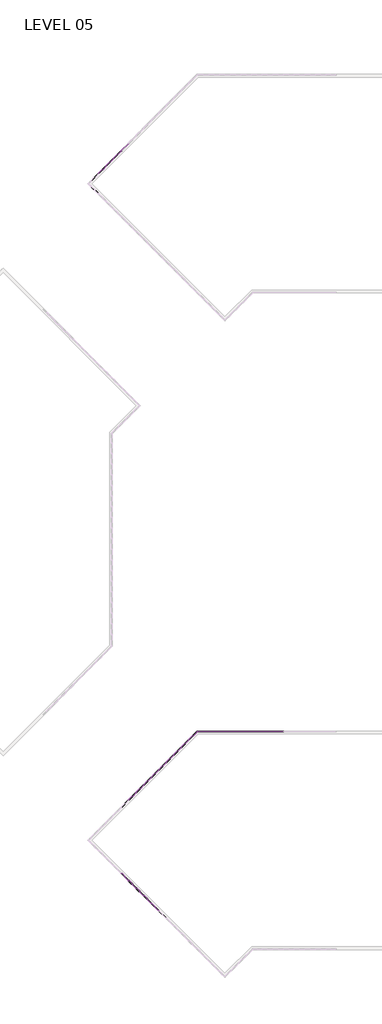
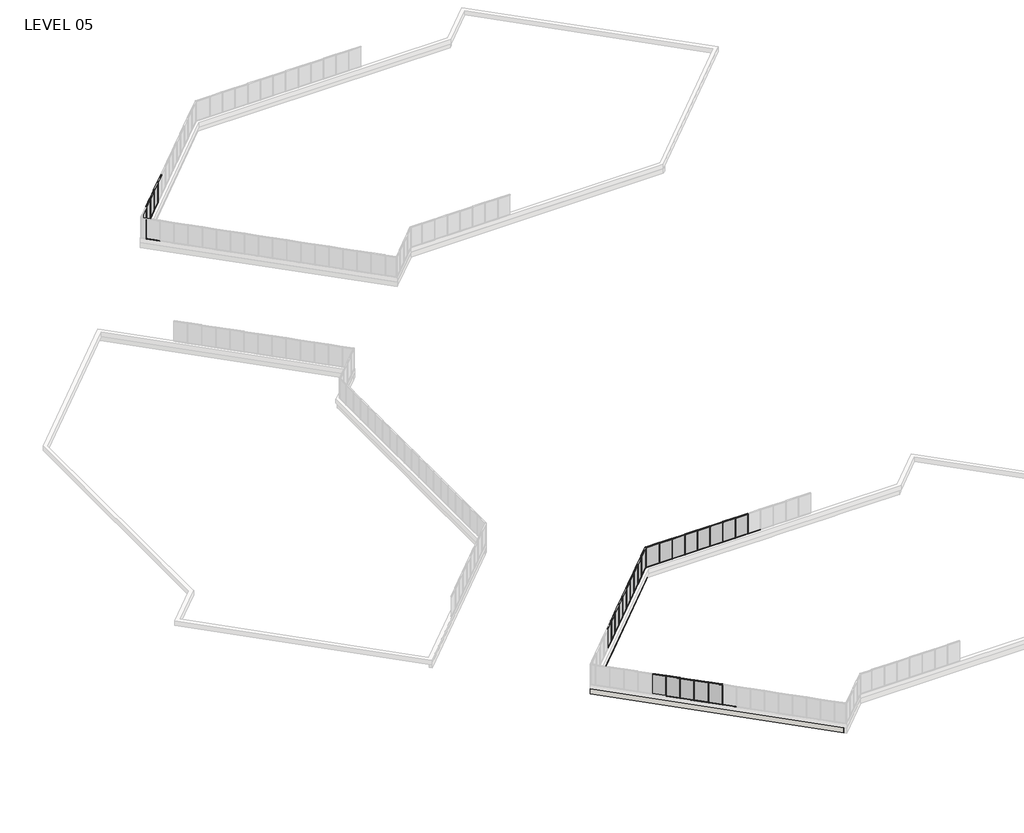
# One storey, part 7 of 17: 84 members, 27 plates, 2 walls.
"""IFC4 building model written with IfcOpenShell, lengths in millimetres."""

from ifc_helpers import new_model, si_unit, origin, place, context, project, spatial, faceted_brep, transform, mapped, element, save
from components import member_5247f267, member_e44af9ab, member_800970d4, member_1bd862b2, member_7ca0f77f, member_ed9c17d6, plate_67294edd, plate_048e4634, plate_aaac5d3d, plate_bbcbcabf, plate_e0fd5134, plate_db5d6751, plate_62af1d3c, plate_dca6a18a

model = new_model("IFC4")

# Units and contexts
model_context = context("Model", 3, world=origin())
ifc_project = project(units=[si_unit("LENGTHUNIT", "METRE", prefix="MILLI")], contexts=[model_context])

# Site, building, storey
site = spatial("IfcSite", under=ifc_project)
building = spatial("IfcBuilding", under=site)
storey = spatial("IfcBuildingStorey", under=building, Name="LEVEL 05", Elevation=15824.2)

# Members
placement = place(None, origin())
member_shape = member_5247f267(model_context)
element("IfcMember", 1, ObjectType="Rectangular Mullion : 2\" x 4.5\" rectangular", at=placement, inside=storey, context=model_context, shape_type="MappedRepresentation", body=[
    mapped(member_shape, transform((21469.35, 26080.1328721, 15824.2), x_axis=(0.0, 0.0, -1.0), y_axis=(0.0, -1.0, 0.0), z_axis=(-1.0, 0.0, 0.0))),
])
element("IfcMember", 2, ObjectType="Rectangular Mullion : 2\" x 4.5\" rectangular", at=placement, inside=storey, context=model_context, shape_type="MappedRepresentation", body=[
    mapped(member_shape, transform((22993.35, 26080.1328721, 15824.2), x_axis=(0.0, 0.0, -1.0), y_axis=(0.0, -1.0, 0.0), z_axis=(-1.0, 0.0, 0.0))),
])
element("IfcMember", 3, ObjectType="Rectangular Mullion : 2\" x 4.5\" rectangular", at=placement, inside=storey, context=model_context, shape_type="MappedRepresentation", body=[
    mapped(member_shape, transform((19945.35, 26080.1328721, 15824.2), x_axis=(0.0, 0.0, -1.0), y_axis=(0.0, -1.0, 0.0), z_axis=(-1.0, 0.0, 0.0))),
])
element("IfcMember", 4, ObjectType="Rectangular Mullion : 2\" x 4.5\" rectangular", at=placement, inside=storey, context=model_context, shape_type="MappedRepresentation", body=[
    mapped(member_shape, transform((18421.35, 26080.1328721, 15824.2), x_axis=(0.0, 0.0, -1.0), y_axis=(0.0, -1.0, 0.0), z_axis=(-1.0, 0.0, 0.0))),
])
element("IfcMember", 5, ObjectType="Rectangular Mullion : 2\" x 4.5\" rectangular", at=placement, inside=storey, context=model_context, shape_type="MappedRepresentation", body=[
    mapped(member_shape, transform((16897.35, 26080.1328721, 15824.2), x_axis=(0.0, 0.0, -1.0), y_axis=(0.0, -1.0, 0.0), z_axis=(-1.0, 0.0, 0.0))),
])
element("IfcMember", 6, ObjectType="Rectangular Mullion : 2\" x 4.5\" rectangular", at=placement, inside=storey, context=model_context, shape_type="MappedRepresentation", body=[
    mapped(member_shape, transform((15373.35, 26080.1328721, 15824.2), x_axis=(0.0, 0.0, -1.0), y_axis=(0.0, -1.0, 0.0), z_axis=(-1.0, 0.0, 0.0))),
])
element("IfcMember", 7, ObjectType="Rectangular Mullion : 2\" x 4.5\" rectangular", at=placement, inside=storey, context=model_context, shape_type="MappedRepresentation", body=[
    mapped(member_shape, transform((13849.35, 26080.1328721, 15824.2), x_axis=(0.0, 0.0, -1.0), y_axis=(0.0, -1.0, 0.0), z_axis=(-1.0, 0.0, 0.0))),
])
element("IfcMember", 8, ObjectType="Rectangular Mullion : 2\" x 4.5\" rectangular", at=placement, inside=storey, context=model_context, shape_type="MappedRepresentation", body=[
    mapped(member_shape, transform((12325.35, 26080.1328721, 15824.2), x_axis=(0.0, 0.0, -1.0), y_axis=(0.0, -1.0, 0.0), z_axis=(-1.0, 0.0, 0.0))),
])
element("IfcMember", 9, ObjectType="Rectangular Mullion : 2\" x 4.5\" rectangular", at=placement, inside=storey, context=model_context, shape_type="MappedRepresentation", body=[
    mapped(member_shape, transform((8320.1332875, 23790.0222953, 15824.2), x_axis=(0.0, 0.0, -1.0), y_axis=(-0.7071067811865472, 0.7071067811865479, 0.0), z_axis=(0.7071067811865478, 0.7071067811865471, 0.0))),
])
element("IfcMember", 10, ObjectType="Rectangular Mullion : 2\" x 4.5\" rectangular", at=placement, inside=storey, context=model_context, shape_type="MappedRepresentation", body=[
    mapped(member_shape, transform((7242.502553, 22712.3915608, 15824.2), x_axis=(0.0, 0.0, -1.0), y_axis=(-0.7071067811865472, 0.7071067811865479, 0.0), z_axis=(0.7071067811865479, 0.7071067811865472, 0.0))),
])
element("IfcMember", 11, ObjectType="Rectangular Mullion : 2\" x 4.5\" rectangular", at=placement, inside=storey, context=model_context, shape_type="MappedRepresentation", body=[
    mapped(member_shape, transform((6164.8718185, 21634.7608262, 15824.2), x_axis=(0.0, 0.0, -1.0), y_axis=(-0.7071067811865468, 0.7071067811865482, 0.0), z_axis=(0.7071067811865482, 0.7071067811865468, 0.0))),
])
element("IfcMember", 12, ObjectType="Rectangular Mullion : 2\" x 4.5\" rectangular", at=placement, inside=storey, context=model_context, shape_type="MappedRepresentation", body=[
    mapped(member_shape, transform((4009.6251512, 19479.5141589, 15824.2), x_axis=(0.0, 0.0, -1.0), y_axis=(-0.7071067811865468, 0.7071067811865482, 0.0), z_axis=(0.7071067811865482, 0.7071067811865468, 0.0))),
])
element("IfcMember", 13, ObjectType="Rectangular Mullion : 2\" x 4.5\" rectangular", at=placement, inside=storey, context=model_context, shape_type="MappedRepresentation", body=[
    mapped(member_shape, transform((2932.0092184, 18401.8982261, 15824.2), x_axis=(0.0, 0.0, -1.0), y_axis=(-0.7071067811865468, 0.7071067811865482, 0.0), z_axis=(0.7071067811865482, 0.7071067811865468, 0.0))),
])
element("IfcMember", 14, ObjectType="Rectangular Mullion : 2\" x 4.5\" rectangular", at=placement, inside=storey, context=model_context, shape_type="MappedRepresentation", body=[
    mapped(member_shape, transform((1854.3932855, 17324.2822933, 15824.2), x_axis=(0.0, 0.0, -1.0), y_axis=(-0.7071067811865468, 0.7071067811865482, 0.0), z_axis=(0.7071067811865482, 0.7071067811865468, 0.0))),
])
element("IfcMember", 15, ObjectType="Rectangular Mullion : 2\" x 4.5\" rectangular", at=placement, inside=storey, context=model_context, shape_type="MappedRepresentation", body=[
    mapped(member_shape, transform((776.7773527, 16246.6663605, 15824.2), x_axis=(0.0, 0.0, -1.0), y_axis=(-0.7071067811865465, 0.7071067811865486, 0.0), z_axis=(0.7071067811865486, 0.7071067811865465, 0.0))),
])
element("IfcMember", 16, ObjectType="Rectangular Mullion : 2\" x 4.5\" rectangular", at=placement, inside=storey, context=model_context, shape_type="MappedRepresentation", body=[
    mapped(member_shape, transform((9397.7640221, 24867.6530298, 15824.2), x_axis=(0.0, 0.0, -1.0), y_axis=(-0.7071067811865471, 0.7071067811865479, 0.0), z_axis=(0.7071067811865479, 0.7071067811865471, 0.0))),
])
element("IfcMember", 17, ObjectType="Rectangular Mullion : 2\" x 4.5\" rectangular", at=placement, inside=storey, context=model_context, shape_type="MappedRepresentation", body=[
    mapped(member_shape, transform((5087.2484848, 20557.1374926, 15824.2), x_axis=(0.0, 0.0, -1.0), y_axis=(-0.7071067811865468, 0.7071067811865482, 0.0), z_axis=(0.7071067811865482, 0.7071067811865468, 0.0))),
])
element("IfcMember", 18, ObjectType="Rectangular Mullion : 2\" x 4.5\" rectangular", at=placement, inside=storey, context=model_context, shape_type="MappedRepresentation", body=[
    mapped(member_shape, transform((812.6774444, 4705.5492921, 15824.2), x_axis=(0.0, 0.0, -1.0), y_axis=(-0.7071067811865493, -0.7071067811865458, 0.0), z_axis=(-0.7071067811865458, 0.7071067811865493, 0.0))),
])
element("IfcMember", 19, ObjectType="Rectangular Mullion : 2\" x 4.5\" rectangular", at=placement, inside=storey, context=model_context, shape_type="MappedRepresentation", body=[
    mapped(member_shape, transform((1890.2724444, 3627.9542921, 15824.2), x_axis=(0.0, 0.0, -1.0), y_axis=(-0.7071067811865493, -0.7071067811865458, 0.0), z_axis=(-0.7071067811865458, 0.7071067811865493, 0.0))),
])
element("IfcMember", 20, ObjectType="Rectangular Mullion : 2\" x 4.5\" rectangular", at=placement, inside=storey, context=model_context, shape_type="MappedRepresentation", body=[
    mapped(member_shape, transform((2967.8674444, 2550.3592921, 15824.2), x_axis=(0.0, 0.0, -1.0), y_axis=(-0.707106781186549, -0.7071067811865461, 0.0), z_axis=(-0.7071067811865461, 0.707106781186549, 0.0))),
])
element("IfcMember", 21, ObjectType="Rectangular Mullion : 2\" x 4.5\" rectangular", at=placement, inside=storey, context=model_context, shape_type="MappedRepresentation", body=[
    mapped(member_shape, transform((-3533.9094563, 105983.7989843, 15824.2), x_axis=(0.0, 0.0, -1.0), y_axis=(-0.7071067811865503, 0.7071067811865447, 0.0), z_axis=(0.7071067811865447, 0.7071067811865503, 0.0))),
])
element("IfcMember", 22, ObjectType="Rectangular Mullion : 2\" x 4.5\" rectangular", at=placement, inside=storey, context=model_context, shape_type="MappedRepresentation", body=[
    mapped(member_shape, transform((-301.0172527, 109216.6911879, 15824.2), x_axis=(0.0, 0.0, -1.0), y_axis=(-0.7071067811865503, 0.7071067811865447, 0.0), z_axis=(0.7071067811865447, 0.7071067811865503, 0.0))),
])
element("IfcMember", 23, ObjectType="Rectangular Mullion : 2\" x 4.5\" rectangular", at=placement, inside=storey, context=model_context, shape_type="MappedRepresentation", body=[
    mapped(member_shape, transform((-1378.6479872, 108139.0604533, 15824.2), x_axis=(0.0, 0.0, -1.0), y_axis=(-0.7071067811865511, 0.707106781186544, 0.0), z_axis=(0.707106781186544, 0.7071067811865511, 0.0))),
])
element("IfcMember", 24, ObjectType="Rectangular Mullion : 2\" x 4.5\" rectangular", at=placement, inside=storey, context=model_context, shape_type="MappedRepresentation", body=[
    mapped(member_shape, transform((-2456.2787218, 107061.4297188, 15824.2), x_axis=(0.0, 0.0, -1.0), y_axis=(-0.7071067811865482, 0.7071067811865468, 0.0), z_axis=(0.7071067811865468, 0.7071067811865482, 0.0))),
])
element("IfcMember", 25, ObjectType="Rectangular Mullion : 2\" x 4.5\" rectangular", at=placement, inside=storey, context=model_context, shape_type="MappedRepresentation", body=[
    mapped(member_shape, transform((-4575.4404937, 104141.486663, 15824.2), x_axis=(0.0, 0.0, -1.0), y_axis=(-0.7071067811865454, -0.7071067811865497, 0.0), z_axis=(-0.7071067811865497, 0.7071067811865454, 0.0))),
])
element("IfcMember", 26, ObjectType="Rectangular Mullion : 2\" x 4.5\" rectangular", at=placement, inside=storey, context=model_context, shape_type="MappedRepresentation", body=[
    mapped(member_shape, transform((21418.55, 26080.1328721, 18415.0), x_axis=(0.0, 0.0, 1.0), y_axis=(0.0, -1.0, 0.0), z_axis=(1.0, 0.0, 0.0))),
])
element("IfcMember", 27, ObjectType="Rectangular Mullion : 2\" x 4.5\" rectangular", at=placement, inside=storey, context=model_context, shape_type="MappedRepresentation", body=[
    mapped(member_shape, transform((22942.55, 26080.1328721, 18415.0), x_axis=(0.0, 0.0, 1.0), y_axis=(0.0, -1.0, 0.0), z_axis=(1.0, 0.0, 0.0))),
])
element("IfcMember", 28, ObjectType="Rectangular Mullion : 2\" x 4.5\" rectangular", at=placement, inside=storey, context=model_context, shape_type="MappedRepresentation", body=[
    mapped(member_shape, transform((19894.55, 26080.1328721, 18415.0), x_axis=(0.0, 0.0, 1.0), y_axis=(0.0, -1.0, 0.0), z_axis=(1.0, 0.0, 0.0))),
])
element("IfcMember", 29, ObjectType="Rectangular Mullion : 2\" x 4.5\" rectangular", at=placement, inside=storey, context=model_context, shape_type="MappedRepresentation", body=[
    mapped(member_shape, transform((18370.55, 26080.1328721, 18415.0), x_axis=(0.0, 0.0, 1.0), y_axis=(0.0, -1.0, 0.0), z_axis=(1.0, 0.0, 0.0))),
])
element("IfcMember", 30, ObjectType="Rectangular Mullion : 2\" x 4.5\" rectangular", at=placement, inside=storey, context=model_context, shape_type="MappedRepresentation", body=[
    mapped(member_shape, transform((16846.55, 26080.1328721, 18415.0), x_axis=(0.0, 0.0, 1.0), y_axis=(0.0, -1.0, 0.0), z_axis=(1.0, 0.0, 0.0))),
])
element("IfcMember", 31, ObjectType="Rectangular Mullion : 2\" x 4.5\" rectangular", at=placement, inside=storey, context=model_context, shape_type="MappedRepresentation", body=[
    mapped(member_shape, transform((15322.55, 26080.1328721, 18415.0), x_axis=(0.0, 0.0, 1.0), y_axis=(0.0, -1.0, 0.0), z_axis=(1.0, 0.0, 0.0))),
])
element("IfcMember", 32, ObjectType="Rectangular Mullion : 2\" x 4.5\" rectangular", at=placement, inside=storey, context=model_context, shape_type="MappedRepresentation", body=[
    mapped(member_shape, transform((13798.55, 26080.1328721, 18415.0), x_axis=(0.0, 0.0, 1.0), y_axis=(0.0, -1.0, 0.0), z_axis=(1.0, 0.0, 0.0))),
])
element("IfcMember", 33, ObjectType="Rectangular Mullion : 2\" x 4.5\" rectangular", at=placement, inside=storey, context=model_context, shape_type="MappedRepresentation", body=[
    mapped(member_shape, transform((8356.054312, 23825.9433198, 18415.0), x_axis=(0.0, 0.0, 1.0), y_axis=(-0.7071067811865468, 0.7071067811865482, 0.0), z_axis=(-0.7071067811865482, -0.7071067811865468, 0.0))),
])
element("IfcMember", 34, ObjectType="Rectangular Mullion : 2\" x 4.5\" rectangular", at=placement, inside=storey, context=model_context, shape_type="MappedRepresentation", body=[
    mapped(member_shape, transform((7278.4235775, 22748.3125852, 18415.0), x_axis=(0.0, 0.0, 1.0), y_axis=(-0.7071067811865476, 0.7071067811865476, 0.0), z_axis=(-0.7071067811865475, -0.7071067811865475, 0.0))),
])
element("IfcMember", 35, ObjectType="Rectangular Mullion : 2\" x 4.5\" rectangular", at=placement, inside=storey, context=model_context, shape_type="MappedRepresentation", body=[
    mapped(member_shape, transform((6200.792843, 21670.6818507, 18415.0), x_axis=(0.0, 0.0, 1.0), y_axis=(-0.7071067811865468, 0.7071067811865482, 0.0), z_axis=(-0.7071067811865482, -0.7071067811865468, 0.0))),
])
element("IfcMember", 36, ObjectType="Rectangular Mullion : 2\" x 4.5\" rectangular", at=placement, inside=storey, context=model_context, shape_type="MappedRepresentation", body=[
    mapped(member_shape, transform((4045.5461756, 19515.4351834, 18415.0), x_axis=(0.0, 0.0, 1.0), y_axis=(-0.7071067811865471, 0.7071067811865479, 0.0), z_axis=(-0.7071067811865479, -0.7071067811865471, 0.0))),
])
element("IfcMember", 37, ObjectType="Rectangular Mullion : 2\" x 4.5\" rectangular", at=placement, inside=storey, context=model_context, shape_type="MappedRepresentation", body=[
    mapped(member_shape, transform((2967.9302428, 18437.8192506, 18415.0), x_axis=(0.0, 0.0, 1.0), y_axis=(-0.7071067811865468, 0.7071067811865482, 0.0), z_axis=(-0.7071067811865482, -0.7071067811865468, 0.0))),
])
element("IfcMember", 38, ObjectType="Rectangular Mullion : 2\" x 4.5\" rectangular", at=placement, inside=storey, context=model_context, shape_type="MappedRepresentation", body=[
    mapped(member_shape, transform((1890.31431, 17360.2033178, 18415.0), x_axis=(0.0, 0.0, 1.0), y_axis=(-0.7071067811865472, 0.7071067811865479, 0.0), z_axis=(-0.7071067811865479, -0.7071067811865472, 0.0))),
])
element("IfcMember", 39, ObjectType="Rectangular Mullion : 2\" x 4.5\" rectangular", at=placement, inside=storey, context=model_context, shape_type="MappedRepresentation", body=[
    mapped(member_shape, transform((812.6983772, 16282.587385, 18415.0), x_axis=(0.0, 0.0, 1.0), y_axis=(-0.7071067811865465, 0.7071067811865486, 0.0), z_axis=(-0.7071067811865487, -0.7071067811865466, 0.0))),
])
element("IfcMember", 40, ObjectType="Rectangular Mullion : 2\" x 4.5\" rectangular", at=placement, inside=storey, context=model_context, shape_type="MappedRepresentation", body=[
    mapped(member_shape, transform((5123.1695093, 20593.058517, 18415.0), x_axis=(0.0, 0.0, 1.0), y_axis=(-0.7071067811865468, 0.7071067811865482, 0.0), z_axis=(-0.7071067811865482, -0.7071067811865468, 0.0))),
])
element("IfcMember", 41, ObjectType="Rectangular Mullion : 2\" x 4.5\" rectangular", at=placement, inside=storey, context=model_context, shape_type="MappedRepresentation", body=[
    mapped(member_shape, transform((776.7564199, 4741.4703165, 18415.0), x_axis=(0.0, 0.0, 1.0), y_axis=(-0.7071067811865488, -0.7071067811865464, 0.0), z_axis=(0.7071067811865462, -0.7071067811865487, 0.0))),
])
element("IfcMember", 42, ObjectType="Rectangular Mullion : 2\" x 4.5\" rectangular", at=placement, inside=storey, context=model_context, shape_type="MappedRepresentation", body=[
    mapped(member_shape, transform((1854.3514199, 3663.8753165, 18415.0), x_axis=(0.0, 0.0, 1.0), y_axis=(-0.7071067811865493, -0.7071067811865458, 0.0), z_axis=(0.7071067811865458, -0.7071067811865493, 0.0))),
])
element("IfcMember", 43, ObjectType="Rectangular Mullion : 2\" x 4.5\" rectangular", at=placement, inside=storey, context=model_context, shape_type="MappedRepresentation", body=[
    mapped(member_shape, transform((2931.9464199, 2586.2803165, 18415.0), x_axis=(0.0, 0.0, 1.0), y_axis=(-0.7071067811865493, -0.7071067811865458, 0.0), z_axis=(0.7071067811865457, -0.7071067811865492, 0.0))),
])
element("IfcMember", 44, ObjectType="Rectangular Mullion : 2\" x 4.5\" rectangular", at=placement, inside=storey, context=model_context, shape_type="MappedRepresentation", body=[
    mapped(member_shape, transform((4009.5414199, 1508.6853165, 18415.0), x_axis=(0.0, 0.0, 1.0), y_axis=(-0.7071067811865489, -0.7071067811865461, 0.0), z_axis=(0.7071067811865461, -0.7071067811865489, 0.0))),
])
element("IfcMember", 45, ObjectType="Rectangular Mullion : 2\" x 4.5\" rectangular", at=placement, inside=storey, context=model_context, shape_type="MappedRepresentation", body=[
    mapped(member_shape, transform((-3497.9884318, 106019.7200088, 18415.0), x_axis=(0.0, 0.0, 1.0), y_axis=(-0.7071067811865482, 0.7071067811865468, 0.0), z_axis=(-0.7071067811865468, -0.7071067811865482, 0.0))),
])
element("IfcMember", 46, ObjectType="Rectangular Mullion : 2\" x 4.5\" rectangular", at=placement, inside=storey, context=model_context, shape_type="MappedRepresentation", body=[
    mapped(member_shape, transform((-265.0962282, 109252.6122123, 18415.0), x_axis=(0.0, 0.0, 1.0), y_axis=(-0.7071067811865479, 0.7071067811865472, 0.0), z_axis=(-0.7071067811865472, -0.7071067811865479, 0.0))),
])
element("IfcMember", 47, ObjectType="Rectangular Mullion : 2\" x 4.5\" rectangular", at=placement, inside=storey, context=model_context, shape_type="MappedRepresentation", body=[
    mapped(member_shape, transform((-1342.7269627, 108174.9814778, 18415.0), x_axis=(0.0, 0.0, 1.0), y_axis=(-0.7071067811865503, 0.7071067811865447, 0.0), z_axis=(-0.7071067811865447, -0.7071067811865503, 0.0))),
])
element("IfcMember", 48, ObjectType="Rectangular Mullion : 2\" x 4.5\" rectangular", at=placement, inside=storey, context=model_context, shape_type="MappedRepresentation", body=[
    mapped(member_shape, transform((-2420.3576973, 107097.3507433, 18415.0), x_axis=(0.0, 0.0, 1.0), y_axis=(-0.7071067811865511, 0.707106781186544, 0.0), z_axis=(-0.707106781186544, -0.7071067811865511, 0.0))),
])
member_2_shape = member_e44af9ab(model_context)
element("IfcMember", 49, ObjectType="Rectangular Mullion : 2\" x 4.5\" rectangular", at=placement, inside=storey, context=model_context, shape_type="MappedRepresentation", body=[
    mapped(member_2_shape, transform((21443.95, 26080.1328721, 15824.2), x_axis=(1.0, 0.0, 0.0), y_axis=(0.0, -1.0, 0.0), z_axis=(0.0, 0.0, -1.0))),
])
element("IfcMember", 50, ObjectType="Rectangular Mullion : 2\" x 4.5\" rectangular", at=placement, inside=storey, context=model_context, shape_type="MappedRepresentation", body=[
    mapped(member_2_shape, transform((22967.95, 26080.1328721, 15824.2), x_axis=(1.0, 0.0, 0.0), y_axis=(0.0, -1.0, 0.0), z_axis=(0.0, 0.0, -1.0))),
])
element("IfcMember", 51, ObjectType="Rectangular Mullion : 2\" x 4.5\" rectangular", at=placement, inside=storey, context=model_context, shape_type="MappedRepresentation", body=[
    mapped(member_2_shape, transform((19919.95, 26080.1328721, 15824.2), x_axis=(1.0, 0.0, 0.0), y_axis=(0.0, -1.0, 0.0), z_axis=(0.0, 0.0, -1.0))),
])
element("IfcMember", 52, ObjectType="Rectangular Mullion : 2\" x 4.5\" rectangular", at=placement, inside=storey, context=model_context, shape_type="MappedRepresentation", body=[
    mapped(member_2_shape, transform((18395.95, 26080.1328721, 15824.2), x_axis=(1.0, 0.0, 0.0), y_axis=(0.0, -1.0, 0.0), z_axis=(0.0, 0.0, -1.0))),
])
element("IfcMember", 53, ObjectType="Rectangular Mullion : 2\" x 4.5\" rectangular", at=placement, inside=storey, context=model_context, shape_type="MappedRepresentation", body=[
    mapped(member_2_shape, transform((16871.95, 26080.1328721, 15824.2), x_axis=(1.0, 0.0, 0.0), y_axis=(0.0, -1.0, 0.0), z_axis=(0.0, 0.0, -1.0))),
])
element("IfcMember", 54, ObjectType="Rectangular Mullion : 2\" x 4.5\" rectangular", at=placement, inside=storey, context=model_context, shape_type="MappedRepresentation", body=[
    mapped(member_2_shape, transform((15347.95, 26080.1328721, 15824.2), x_axis=(1.0, 0.0, 0.0), y_axis=(0.0, -1.0, 0.0), z_axis=(0.0, 0.0, -1.0))),
])
element("IfcMember", 55, ObjectType="Rectangular Mullion : 2\" x 4.5\" rectangular", at=placement, inside=storey, context=model_context, shape_type="MappedRepresentation", body=[
    mapped(member_2_shape, transform((13823.95, 26080.1328721, 15824.2), x_axis=(1.0, 0.0, 0.0), y_axis=(0.0, -1.0, 0.0), z_axis=(0.0, 0.0, -1.0))),
])
element("IfcMember", 56, ObjectType="Rectangular Mullion : 2\" x 4.5\" rectangular", at=placement, inside=storey, context=model_context, shape_type="MappedRepresentation", body=[
    mapped(member_2_shape, transform((12299.95, 26080.1328721, 15824.2), x_axis=(1.0, 0.0, 0.0), y_axis=(0.0, -1.0, 0.0), z_axis=(0.0, 0.0, -1.0))),
])
element("IfcMember", 57, ObjectType="Rectangular Mullion : 2\" x 4.5\" rectangular", at=placement, inside=storey, context=model_context, shape_type="MappedRepresentation", body=[
    mapped(member_2_shape, transform((8338.0937998, 23807.9828075, 15824.2), x_axis=(-0.7071067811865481, -0.7071067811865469, 0.0), y_axis=(-0.7071067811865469, 0.7071067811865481, 0.0), z_axis=(0.0, 0.0, -1.0))),
])
element("IfcMember", 58, ObjectType="Rectangular Mullion : 2\" x 4.5\" rectangular", at=placement, inside=storey, context=model_context, shape_type="MappedRepresentation", body=[
    mapped(member_2_shape, transform((7260.4630653, 22730.352073, 15824.2), x_axis=(-0.7071067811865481, -0.7071067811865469, 0.0), y_axis=(-0.7071067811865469, 0.7071067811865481, 0.0), z_axis=(0.0, 0.0, -1.0))),
])
element("IfcMember", 59, ObjectType="Rectangular Mullion : 2\" x 4.5\" rectangular", at=placement, inside=storey, context=model_context, shape_type="MappedRepresentation", body=[
    mapped(member_2_shape, transform((6182.8323307, 21652.7213385, 15824.2), x_axis=(-0.7071067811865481, -0.7071067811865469, 0.0), y_axis=(-0.7071067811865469, 0.7071067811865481, 0.0), z_axis=(0.0, 0.0, -1.0))),
])
element("IfcMember", 60, ObjectType="Rectangular Mullion : 2\" x 4.5\" rectangular", at=placement, inside=storey, context=model_context, shape_type="MappedRepresentation", body=[
    mapped(member_2_shape, transform((4027.5856634, 19497.4746711, 15824.2), x_axis=(-0.7071067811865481, -0.7071067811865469, 0.0), y_axis=(-0.7071067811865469, 0.7071067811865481, 0.0), z_axis=(0.0, 0.0, -1.0))),
])
element("IfcMember", 61, ObjectType="Rectangular Mullion : 2\" x 4.5\" rectangular", at=placement, inside=storey, context=model_context, shape_type="MappedRepresentation", body=[
    mapped(member_2_shape, transform((2949.9697306, 18419.8587383, 15824.2), x_axis=(-0.7071067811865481, -0.7071067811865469, 0.0), y_axis=(-0.7071067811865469, 0.7071067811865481, 0.0), z_axis=(0.0, 0.0, -1.0))),
])
element("IfcMember", 62, ObjectType="Rectangular Mullion : 2\" x 4.5\" rectangular", at=placement, inside=storey, context=model_context, shape_type="MappedRepresentation", body=[
    mapped(member_2_shape, transform((1872.3537978, 17342.2428055, 15824.2), x_axis=(-0.7071067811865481, -0.7071067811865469, 0.0), y_axis=(-0.7071067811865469, 0.7071067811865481, 0.0), z_axis=(0.0, 0.0, -1.0))),
])
element("IfcMember", 63, ObjectType="Rectangular Mullion : 2\" x 4.5\" rectangular", at=placement, inside=storey, context=model_context, shape_type="MappedRepresentation", body=[
    mapped(member_2_shape, transform((794.737865, 16264.6268727, 15824.2), x_axis=(-0.7071067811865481, -0.7071067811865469, 0.0), y_axis=(-0.7071067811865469, 0.7071067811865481, 0.0), z_axis=(0.0, 0.0, -1.0))),
])
element("IfcMember", 64, ObjectType="Rectangular Mullion : 2\" x 4.5\" rectangular", at=placement, inside=storey, context=model_context, shape_type="MappedRepresentation", body=[
    mapped(member_2_shape, transform((9415.7245343, 24885.6135421, 15824.2), x_axis=(-0.7071067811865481, -0.7071067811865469, 0.0), y_axis=(-0.7071067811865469, 0.7071067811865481, 0.0), z_axis=(0.0, 0.0, -1.0))),
])
element("IfcMember", 65, ObjectType="Rectangular Mullion : 2\" x 4.5\" rectangular", at=placement, inside=storey, context=model_context, shape_type="MappedRepresentation", body=[
    mapped(member_2_shape, transform((5105.2089971, 20575.0980048, 15824.2), x_axis=(-0.7071067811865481, -0.7071067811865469, 0.0), y_axis=(-0.7071067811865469, 0.7071067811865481, 0.0), z_axis=(0.0, 0.0, -1.0))),
])
element("IfcMember", 66, ObjectType="Rectangular Mullion : 2\" x 4.5\" rectangular", at=placement, inside=storey, context=model_context, shape_type="MappedRepresentation", body=[
    mapped(member_2_shape, transform((794.7169322, 4723.5098043, 15824.2), x_axis=(0.7071067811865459, -0.7071067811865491, 0.0), y_axis=(-0.7071067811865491, -0.7071067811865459, 0.0), z_axis=(0.0, 0.0, -1.0))),
])
element("IfcMember", 67, ObjectType="Rectangular Mullion : 2\" x 4.5\" rectangular", at=placement, inside=storey, context=model_context, shape_type="MappedRepresentation", body=[
    mapped(member_2_shape, transform((1872.3119322, 3645.9148043, 15824.2), x_axis=(0.7071067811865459, -0.7071067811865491, 0.0), y_axis=(-0.7071067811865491, -0.7071067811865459, 0.0), z_axis=(0.0, 0.0, -1.0))),
])
element("IfcMember", 68, ObjectType="Rectangular Mullion : 2\" x 4.5\" rectangular", at=placement, inside=storey, context=model_context, shape_type="MappedRepresentation", body=[
    mapped(member_2_shape, transform((2949.9069322, 2568.3198043, 15824.2), x_axis=(0.7071067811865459, -0.7071067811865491, 0.0), y_axis=(-0.7071067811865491, -0.7071067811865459, 0.0), z_axis=(0.0, 0.0, -1.0))),
])
element("IfcMember", 69, ObjectType="Rectangular Mullion : 2\" x 4.5\" rectangular", at=placement, inside=storey, context=model_context, shape_type="MappedRepresentation", body=[
    mapped(member_2_shape, transform((4027.5019322, 1490.7248043, 15824.2), x_axis=(0.7071067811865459, -0.7071067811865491, 0.0), y_axis=(-0.7071067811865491, -0.7071067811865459, 0.0), z_axis=(0.0, 0.0, -1.0))),
])
element("IfcMember", 70, ObjectType="Rectangular Mullion : 2\" x 4.5\" rectangular", at=placement, inside=storey, context=model_context, shape_type="MappedRepresentation", body=[
    mapped(member_2_shape, transform((5102.1211371, 416.1055994, 15824.2), x_axis=(0.7071067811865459, -0.7071067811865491, 0.0), y_axis=(-0.7071067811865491, -0.7071067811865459, 0.0), z_axis=(0.0, 0.0, -1.0))),
])
element("IfcMember", 71, ObjectType="Rectangular Mullion : 2\" x 4.5\" rectangular", at=placement, inside=storey, context=model_context, shape_type="MappedRepresentation", body=[
    mapped(member_2_shape, transform((-3515.948944, 106001.7594965, 15824.2), x_axis=(-0.7071067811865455, -0.7071067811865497, 0.0), y_axis=(-0.7071067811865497, 0.7071067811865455, 0.0), z_axis=(0.0, 0.0, -1.0))),
])
element("IfcMember", 72, ObjectType="Rectangular Mullion : 2\" x 4.5\" rectangular", at=placement, inside=storey, context=model_context, shape_type="MappedRepresentation", body=[
    mapped(member_2_shape, transform((-283.0567405, 109234.6517001, 15824.2), x_axis=(-0.7071067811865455, -0.7071067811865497, 0.0), y_axis=(-0.7071067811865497, 0.7071067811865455, 0.0), z_axis=(0.0, 0.0, -1.0))),
])
element("IfcMember", 73, ObjectType="Rectangular Mullion : 2\" x 4.5\" rectangular", at=placement, inside=storey, context=model_context, shape_type="MappedRepresentation", body=[
    mapped(member_2_shape, transform((-1360.687475, 108157.0209656, 15824.2), x_axis=(-0.7071067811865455, -0.7071067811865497, 0.0), y_axis=(-0.7071067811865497, 0.7071067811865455, 0.0), z_axis=(0.0, 0.0, -1.0))),
])
element("IfcMember", 74, ObjectType="Rectangular Mullion : 2\" x 4.5\" rectangular", at=placement, inside=storey, context=model_context, shape_type="MappedRepresentation", body=[
    mapped(member_2_shape, transform((-2438.3182095, 107079.390231, 15824.2), x_axis=(-0.7071067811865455, -0.7071067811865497, 0.0), y_axis=(-0.7071067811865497, 0.7071067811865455, 0.0), z_axis=(0.0, 0.0, -1.0))),
])
element("IfcMember", 75, ObjectType="Rectangular Mullion : 2\" x 4.5\" rectangular", at=placement, inside=storey, context=model_context, shape_type="MappedRepresentation", body=[
    mapped(member_2_shape, transform((-4593.4010059, 104159.4471752, 15824.2), x_axis=(0.7071067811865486, -0.7071067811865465, 0.0), y_axis=(-0.7071067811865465, -0.7071067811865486, 0.0), z_axis=(0.0, 0.0, -1.0))),
])
member_3_shape = member_800970d4(model_context)
element("IfcMember", 76, ObjectType="Rectangular Mullion : 2\" x 4.5\" rectangular", at=placement, inside=storey, context=model_context, shape_type="MappedRepresentation", body=[
    mapped(member_3_shape, transform((10610.2438644, 26080.1328721, 18415.0), x_axis=(-1.0, 0.0, 0.0), y_axis=(0.0, -1.0, 0.0), z_axis=(0.0, 0.0, 1.0))),
])
element("IfcMember", 77, ObjectType="Rectangular Mullion : 2\" x 4.5\" rectangular", at=placement, inside=storey, context=model_context, shape_type="MappedRepresentation", body=[
    mapped(member_3_shape, transform((10610.2438644, 26080.1328721, 18415.0), x_axis=(0.7071067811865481, 0.7071067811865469, 0.0), y_axis=(-0.7071067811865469, 0.7071067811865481, 0.0), z_axis=(0.0, 0.0, 1.0))),
])
member_4_shape = member_1bd862b2(model_context)
element("IfcMember", 78, ObjectType="Rectangular Mullion : 2\" x 4.5\" rectangular", at=placement, inside=storey, context=model_context, shape_type="MappedRepresentation", body=[
    mapped(member_4_shape, transform((12274.55, 26080.1328721, 18415.0), x_axis=(0.0, 0.0, 1.0), y_axis=(0.0, -1.0, 0.0), z_axis=(1.0, 0.0, 0.0))),
])
element("IfcMember", 79, ObjectType="Rectangular Mullion : 2\" x 4.5\" rectangular", at=placement, inside=storey, context=model_context, shape_type="MappedRepresentation", body=[
    mapped(member_4_shape, transform((10661.0438644, 26080.1328721, 15824.2), x_axis=(0.0, 0.0, -1.0), y_axis=(0.0, -1.0, 0.0), z_axis=(-1.0, 0.0, 0.0))),
])
member_5_shape = member_7ca0f77f(model_context)
element("IfcMember", 80, ObjectType="Rectangular Mullion : 2\" x 4.5\" rectangular", at=placement, inside=storey, context=model_context, shape_type="MappedRepresentation", body=[
    mapped(member_5_shape, transform((9433.6850466, 24903.5740543, 18415.0), x_axis=(0.0, 0.0, 1.0), y_axis=(-0.7071067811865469, 0.7071067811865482, 0.0), z_axis=(-0.7071067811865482, -0.7071067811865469, 0.0))),
])
element("IfcMember", 81, ObjectType="Rectangular Mullion : 2\" x 4.5\" rectangular", at=placement, inside=storey, context=model_context, shape_type="MappedRepresentation", body=[
    mapped(member_5_shape, transform((10574.3228399, 26044.2118476, 15824.2), x_axis=(0.0, 0.0, -1.0), y_axis=(-0.7071067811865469, 0.7071067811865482, 0.0), z_axis=(0.7071067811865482, 0.7071067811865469, 0.0))),
])
member_6_shape = member_ed9c17d6(model_context)
element("IfcMember", 82, ObjectType="Rectangular Mullion : 2\" x 4.5\" rectangular", at=placement, inside=storey, context=model_context, shape_type="MappedRepresentation", body=[
    mapped(member_6_shape, transform((5084.1606248, 434.0661116, 18415.0), x_axis=(0.0, 0.0, 1.0), y_axis=(-0.7071067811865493, -0.7071067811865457, 0.0), z_axis=(0.7071067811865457, -0.7071067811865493, 0.0))),
])
element("IfcMember", 83, ObjectType="Rectangular Mullion : 2\" x 4.5\" rectangular", at=placement, inside=storey, context=model_context, shape_type="MappedRepresentation", body=[
    mapped(member_6_shape, transform((4045.4624444, 1472.7642921, 15824.2), x_axis=(0.0, 0.0, -1.0), y_axis=(-0.7071067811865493, -0.7071067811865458, 0.0), z_axis=(-0.7071067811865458, 0.7071067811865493, 0.0))),
])
element("IfcMember", 84, ObjectType="Rectangular Mullion : 2\" x 4.5\" rectangular", at=placement, inside=storey, context=model_context, shape_type="MappedRepresentation", body=[
    mapped(member_6_shape, transform((5120.0816493, 398.1450872, 15824.2), x_axis=(0.0, 0.0, -1.0), y_axis=(-0.7071067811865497, -0.7071067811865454, 0.0), z_axis=(-0.7071067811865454, 0.7071067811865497, 0.0))),
])

# Plates
plate_shape = plate_67294edd(model_context)
element("IfcPlate", 85, ObjectType="System Panel : 1/4\" Glass", at=placement, inside=storey, context=model_context, shape_type="MappedRepresentation", body=[
    mapped(plate_shape, transform((22205.95, 26080.1328721, 15875.0), x_axis=(1.0, 0.0, 0.0), y_axis=(0.0, 1.0, 0.0), z_axis=(0.0, 0.0, 1.0))),
])
element("IfcPlate", 86, ObjectType="System Panel : 1/4\" Glass", at=placement, inside=storey, context=model_context, shape_type="MappedRepresentation", body=[
    mapped(plate_shape, transform((20681.95, 26080.1328721, 15875.0), x_axis=(1.0, 0.0, 0.0), y_axis=(0.0, 1.0, 0.0), z_axis=(0.0, 0.0, 1.0))),
])
element("IfcPlate", 87, ObjectType="System Panel : 1/4\" Glass", at=placement, inside=storey, context=model_context, shape_type="MappedRepresentation", body=[
    mapped(plate_shape, transform((19157.95, 26080.1328721, 15875.0), x_axis=(1.0, 0.0, 0.0), y_axis=(0.0, 1.0, 0.0), z_axis=(0.0, 0.0, 1.0))),
])
element("IfcPlate", 88, ObjectType="System Panel : 1/4\" Glass", at=placement, inside=storey, context=model_context, shape_type="MappedRepresentation", body=[
    mapped(plate_shape, transform((17633.95, 26080.1328721, 15875.0), x_axis=(1.0, 0.0, 0.0), y_axis=(0.0, 1.0, 0.0), z_axis=(0.0, 0.0, 1.0))),
])
element("IfcPlate", 89, ObjectType="System Panel : 1/4\" Glass", at=placement, inside=storey, context=model_context, shape_type="MappedRepresentation", body=[
    mapped(plate_shape, transform((16109.95, 26080.1328721, 15875.0), x_axis=(1.0, 0.0, 0.0), y_axis=(0.0, 1.0, 0.0), z_axis=(0.0, 0.0, 1.0))),
])
element("IfcPlate", 90, ObjectType="System Panel : 1/4\" Glass", at=placement, inside=storey, context=model_context, shape_type="MappedRepresentation", body=[
    mapped(plate_shape, transform((14585.95, 26080.1328721, 15875.0), x_axis=(1.0, 0.0, 0.0), y_axis=(0.0, 1.0, 0.0), z_axis=(0.0, 0.0, 1.0))),
])
element("IfcPlate", 91, ObjectType="System Panel : 1/4\" Glass", at=placement, inside=storey, context=model_context, shape_type="MappedRepresentation", body=[
    mapped(plate_shape, transform((13061.95, 26080.1328721, 15875.0), x_axis=(1.0, 0.0, 0.0), y_axis=(0.0, 1.0, 0.0), z_axis=(0.0, 0.0, 1.0))),
])
element("IfcPlate", 92, ObjectType="System Panel : 1/4\" Glass", at=placement, inside=storey, context=model_context, shape_type="MappedRepresentation", body=[
    mapped(plate_shape, transform((7799.2784325, 23269.1674403, 15875.0), x_axis=(-0.7071067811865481, -0.7071067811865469, 0.0), y_axis=(0.7071067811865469, -0.7071067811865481, 0.0), z_axis=(0.0, 0.0, 1.0))),
])
element("IfcPlate", 93, ObjectType="System Panel : 1/4\" Glass", at=placement, inside=storey, context=model_context, shape_type="MappedRepresentation", body=[
    mapped(plate_shape, transform((6721.647698, 22191.5367057, 15875.0), x_axis=(-0.7071067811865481, -0.7071067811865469, 0.0), y_axis=(0.7071067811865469, -0.7071067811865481, 0.0), z_axis=(0.0, 0.0, 1.0))),
])
element("IfcPlate", 94, ObjectType="System Panel : 1/4\" Glass", at=placement, inside=storey, context=model_context, shape_type="MappedRepresentation", body=[
    mapped(plate_shape, transform((8876.909167, 24346.7981748, 15875.0), x_axis=(-0.7071067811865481, -0.7071067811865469, 0.0), y_axis=(0.7071067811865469, -0.7071067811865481, 0.0), z_axis=(0.0, 0.0, 1.0))),
])
element("IfcPlate", 95, ObjectType="System Panel : 1/4\" Glass", at=placement, inside=storey, context=model_context, shape_type="MappedRepresentation", body=[
    mapped(plate_shape, transform((-4054.7643113, 105462.9441292, 15875.0), x_axis=(-0.7071067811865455, -0.7071067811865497, 0.0), y_axis=(0.7071067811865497, -0.7071067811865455, 0.0), z_axis=(0.0, 0.0, 1.0))),
])
element("IfcPlate", 96, ObjectType="System Panel : 1/4\" Glass", at=placement, inside=storey, context=model_context, shape_type="MappedRepresentation", body=[
    mapped(plate_shape, transform((-821.8721077, 108695.8363328, 15875.0), x_axis=(-0.7071067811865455, -0.7071067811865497, 0.0), y_axis=(0.7071067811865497, -0.7071067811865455, 0.0), z_axis=(0.0, 0.0, 1.0))),
])
element("IfcPlate", 97, ObjectType="System Panel : 1/4\" Glass", at=placement, inside=storey, context=model_context, shape_type="MappedRepresentation", body=[
    mapped(plate_shape, transform((-1899.5028422, 107618.2055983, 15875.0), x_axis=(-0.7071067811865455, -0.7071067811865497, 0.0), y_axis=(0.7071067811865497, -0.7071067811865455, 0.0), z_axis=(0.0, 0.0, 1.0))),
])
element("IfcPlate", 98, ObjectType="System Panel : 1/4\" Glass", at=placement, inside=storey, context=model_context, shape_type="MappedRepresentation", body=[
    mapped(plate_shape, transform((-2977.1335768, 106540.5748638, 15875.0), x_axis=(-0.7071067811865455, -0.7071067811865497, 0.0), y_axis=(0.7071067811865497, -0.7071067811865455, 0.0), z_axis=(0.0, 0.0, 1.0))),
])
plate_2_shape = plate_048e4634(model_context)
element("IfcPlate", 99, ObjectType="System Panel : 1/4\" Glass", at=placement, inside=storey, context=model_context, shape_type="MappedRepresentation", body=[
    mapped(plate_2_shape, transform((1333.5144322, 4184.7123043, 15875.0), x_axis=(0.7071067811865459, -0.7071067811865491, 0.0), y_axis=(0.7071067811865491, 0.7071067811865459, 0.0), z_axis=(0.0, 0.0, 1.0))),
])
element("IfcPlate", 100, ObjectType="System Panel : 1/4\" Glass", at=placement, inside=storey, context=model_context, shape_type="MappedRepresentation", body=[
    mapped(plate_2_shape, transform((2411.1094322, 3107.1173043, 15875.0), x_axis=(0.7071067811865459, -0.7071067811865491, 0.0), y_axis=(0.7071067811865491, 0.7071067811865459, 0.0), z_axis=(0.0, 0.0, 1.0))),
])
element("IfcPlate", 101, ObjectType="System Panel : 1/4\" Glass", at=placement, inside=storey, context=model_context, shape_type="MappedRepresentation", body=[
    mapped(plate_2_shape, transform((3488.7044322, 2029.5223043, 15875.0), x_axis=(0.7071067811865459, -0.7071067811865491, 0.0), y_axis=(0.7071067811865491, 0.7071067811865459, 0.0), z_axis=(0.0, 0.0, 1.0))),
])
plate_3_shape = plate_aaac5d3d(model_context)
element("IfcPlate", 102, ObjectType="System Panel : 1/4\" Glass", at=placement, inside=storey, context=model_context, shape_type="MappedRepresentation", body=[
    mapped(plate_3_shape, transform((3488.777697, 18958.6667047, 15875.0), x_axis=(-0.7071067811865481, -0.7071067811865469, 0.0), y_axis=(0.7071067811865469, -0.7071067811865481, 0.0), z_axis=(0.0, 0.0, 1.0))),
])
element("IfcPlate", 103, ObjectType="System Panel : 1/4\" Glass", at=placement, inside=storey, context=model_context, shape_type="MappedRepresentation", body=[
    mapped(plate_3_shape, transform((2411.1617642, 17881.0507719, 15875.0), x_axis=(-0.7071067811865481, -0.7071067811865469, 0.0), y_axis=(0.7071067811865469, -0.7071067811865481, 0.0), z_axis=(0.0, 0.0, 1.0))),
])
element("IfcPlate", 104, ObjectType="System Panel : 1/4\" Glass", at=placement, inside=storey, context=model_context, shape_type="MappedRepresentation", body=[
    mapped(plate_3_shape, transform((1333.5458314, 16803.4348391, 15875.0), x_axis=(-0.7071067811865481, -0.7071067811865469, 0.0), y_axis=(0.7071067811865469, -0.7071067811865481, 0.0), z_axis=(0.0, 0.0, 1.0))),
])
plate_4_shape = plate_bbcbcabf(model_context)
element("IfcPlate", 105, ObjectType="System Panel : 1/4\" Glass", at=placement, inside=storey, context=model_context, shape_type="MappedRepresentation", body=[
    mapped(plate_4_shape, transform((11467.7969322, 26080.1328721, 15875.0), x_axis=(1.0, 0.0, 0.0), y_axis=(0.0, 1.0, 0.0), z_axis=(0.0, 0.0, 1.0))),
])
plate_5_shape = plate_e0fd5134(model_context)
element("IfcPlate", 106, ObjectType="System Panel : 1/4\" Glass", at=placement, inside=storey, context=model_context, shape_type="MappedRepresentation", body=[
    mapped(plate_5_shape, transform((5644.0206639, 21113.9096716, 15875.0), x_axis=(-0.7071067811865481, -0.7071067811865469, 0.0), y_axis=(0.7071067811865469, -0.7071067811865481, 0.0), z_axis=(0.0, 0.0, 1.0))),
])
element("IfcPlate", 107, ObjectType="System Panel : 1/4\" Glass", at=placement, inside=storey, context=model_context, shape_type="MappedRepresentation", body=[
    mapped(plate_5_shape, transform((255.9261982, 15725.8152059, 15875.0), x_axis=(-0.7071067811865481, -0.7071067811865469, 0.0), y_axis=(0.7071067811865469, -0.7071067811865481, 0.0), z_axis=(0.0, 0.0, 1.0))),
])
element("IfcPlate", 108, ObjectType="System Panel : 1/4\" Glass", at=placement, inside=storey, context=model_context, shape_type="MappedRepresentation", body=[
    mapped(plate_5_shape, transform((4566.3973302, 20036.286338, 15875.0), x_axis=(-0.7071067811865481, -0.7071067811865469, 0.0), y_axis=(0.7071067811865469, -0.7071067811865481, 0.0), z_axis=(0.0, 0.0, 1.0))),
])
plate_6_shape = plate_db5d6751(model_context)
element("IfcPlate", 109, ObjectType="System Panel : 1/4\" Glass", at=placement, inside=storey, context=model_context, shape_type="MappedRepresentation", body=[
    mapped(plate_6_shape, transform((10004.0039432, 25473.892951, 15875.0), x_axis=(-0.7071067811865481, -0.7071067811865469, 0.0), y_axis=(0.7071067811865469, -0.7071067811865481, 0.0), z_axis=(0.0, 0.0, 1.0))),
])
plate_7_shape = plate_62af1d3c(model_context)
element("IfcPlate", 110, ObjectType="System Panel : 1/4\" Glass", at=placement, inside=storey, context=model_context, shape_type="MappedRepresentation", body=[
    mapped(plate_7_shape, transform((255.9104986, 5262.3162379, 15875.0), x_axis=(0.7071067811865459, -0.7071067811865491, 0.0), y_axis=(0.7071067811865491, 0.7071067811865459, 0.0), z_axis=(0.0, 0.0, 1.0))),
])
plate_8_shape = plate_dca6a18a(model_context)
element("IfcPlate", 111, ObjectType="System Panel : 1/4\" Glass", at=placement, inside=storey, context=model_context, shape_type="MappedRepresentation", body=[
    mapped(plate_8_shape, transform((4564.8115346, 953.4152019, 15875.0), x_axis=(0.7071067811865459, -0.7071067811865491, 0.0), y_axis=(0.7071067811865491, 0.7071067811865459, 0.0), z_axis=(0.0, 0.0, 1.0))),
])

# Walls
element("IfcWall", 112, ObjectType="01-CONCRETE-12", at=placement, inside=storey, context=model_context, shape_type="Brep", body=[
    faceted_brep([(14585.95, -8717.4932748, 14643.1), (-4625.6011469, 10494.0578721, 14643.1), (-4841.1272938, 10709.584019, 14643.1), (-4841.1272938, 10709.584019, 15265.4), (-4625.6011469, 10494.0578721, 15265.4), (14585.95, -8717.4932748, 15265.4), (14370.4238531, -8933.0194217, 14643.1), (14370.4238531, -8933.0194217, 15265.4), (-5056.6534407, 10494.0578721, 15265.4), (-5056.6534407, 10494.0578721, 14643.1)], [[[0, 1, 2, 3, 4, 5]], [[6, 7, 8, 9]], [[2, 1, 0, 6, 9]], [[5, 4, 3, 8, 7]], [[0, 5, 7, 6]], [[3, 2, 9, 8]]]),
])
element("IfcWall", 113, ObjectType="01-CONCRETE-12", at=placement, inside=storey, context=model_context, shape_type="Brep", body=[
    faceted_brep([(-4625.6011469, 10494.0578721, 14643.1), (-323.2892204, 14796.3697987, 14643.1), (107.7630735, 15227.4220925, 14643.1), (10422.9028286, 25542.5618476, 14643.1), (10712.8238531, 25832.4828721, 14643.1), (10712.8238531, 25832.4828721, 15265.4), (10422.9028286, 25542.5618476, 15265.4), (107.7630735, 15227.4220925, 15265.4), (-323.2892204, 14796.3697987, 15265.4), (-4625.6011469, 10494.0578721, 15265.4), (-4841.1272938, 10709.584019, 14643.1), (-4841.1272938, 10709.584019, 15265.4), (10281.7715593, 25832.4828721, 15265.4), (10281.7715593, 25832.4828721, 14643.1)], [[[0, 1, 2, 3, 4, 5, 6, 7, 8, 9]], [[10, 11, 12, 13]], [[4, 3, 2, 1, 0, 10, 13]], [[9, 8, 7, 6, 5, 12, 11]], [[0, 9, 11, 10]], [[5, 4, 13, 12]]]),
])

save(model, "model.ifc")
